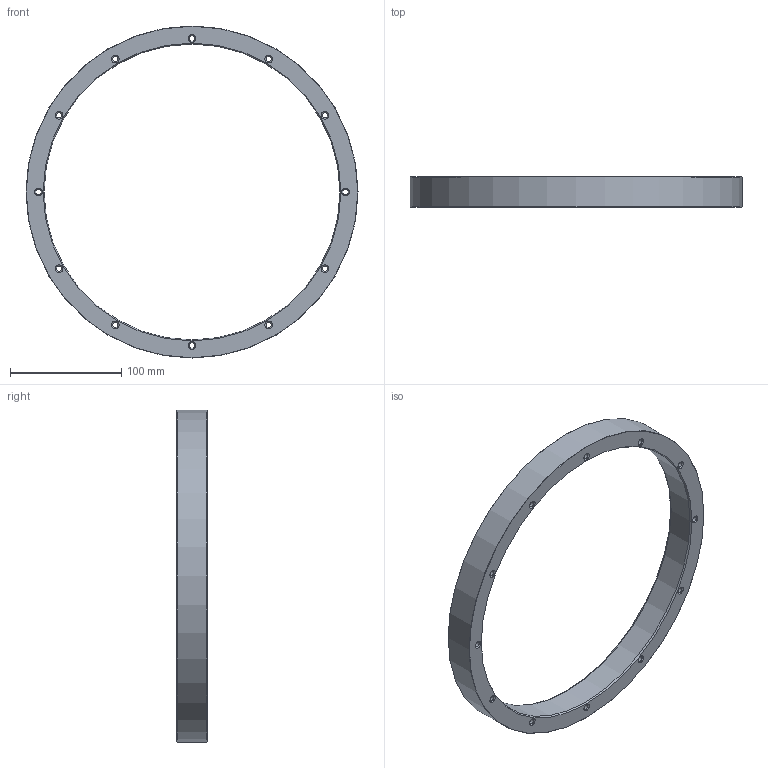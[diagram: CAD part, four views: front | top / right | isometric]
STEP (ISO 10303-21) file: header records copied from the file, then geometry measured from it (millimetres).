
FILE_DESCRIPTION(('STEP AP214'), '1');
FILE_NAME('ﾌﾀﾍﾏ.684252.020-20 ﾐⅳⅱ 380x27', '', ('UNSPECIFIED'), ('UNSPECIFIED'), 'C3D Converter', 'C3D Toolkit', '');
FILE_SCHEMA(('AUTOMOTIVE_DESIGN { 1 0 10303 214 3 1 1}'));
Length unit declared in the file: millimetre
Products named in the file (1): МАНП.684252.020-20
Bounding box: 298.5 x 27 x 298.5 mm (x, y, z)
Volume: 381578 mm3; surface area: 79848.5 mm2
Topology: 1 solids, 1 shells, 44 faces, 98 edges, 56 vertices
Faces by surface type: cone 26, cylinder 14, plane 2, torus 2
Full cylindrical faces by diameter (mm): 4.917 x12, 266 x1, 298.5 x1
Entity records: 1448 total; most frequent: DIRECTION 202, CARTESIAN_POINT 157, EDGE_LOOP 112, ORIENTED_EDGE 112, AXIS2_PLACEMENT_3D 101, FACE_OUTER_BOUND 84, EDGE_CURVE 56, VERTEX_POINT 56
